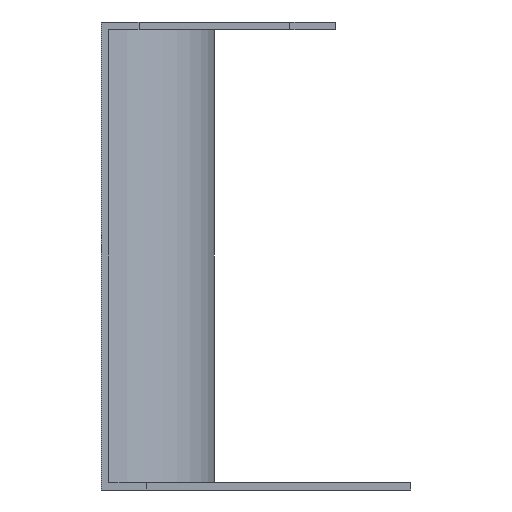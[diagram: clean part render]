
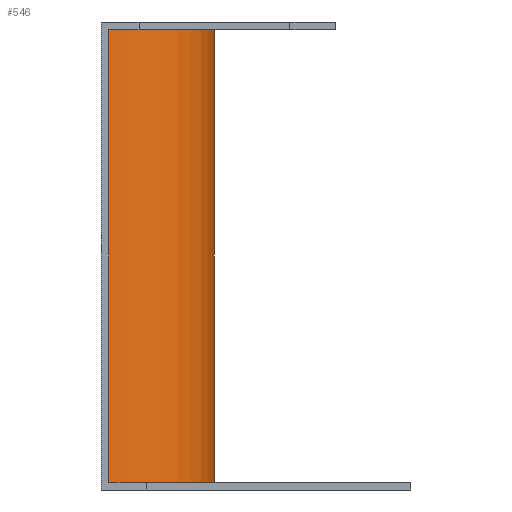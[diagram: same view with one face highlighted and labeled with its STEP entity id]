
A CAD part, front view. The second image highlights one B-rep face of the part: STEP entity #546.
In plain terms, the highlighted cylindrical face has radius 0.15 mm (diameter 0.3 mm), a partial arc.
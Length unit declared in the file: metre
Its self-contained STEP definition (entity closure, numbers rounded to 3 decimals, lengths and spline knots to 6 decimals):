
#13=CYLINDRICAL_SURFACE('',#745,0.00015);
#15=CIRCLE('',#731,0.00015);
#16=CIRCLE('',#734,0.00015);
#158=ORIENTED_EDGE('',*,*,#207,.F.);
#159=ORIENTED_EDGE('',*,*,#211,.F.);
#160=ORIENTED_EDGE('',*,*,#214,.F.);
#161=ORIENTED_EDGE('',*,*,#232,.F.);
#207=EDGE_CURVE('',#268,#270,#15,.T.);
#211=EDGE_CURVE('',#272,#268,#329,.T.);
#214=EDGE_CURVE('',#274,#272,#16,.T.);
#232=EDGE_CURVE('',#270,#274,#348,.T.);
#268=VERTEX_POINT('',#970);
#270=VERTEX_POINT('',#973);
#272=VERTEX_POINT('',#980);
#274=VERTEX_POINT('',#986);
#329=LINE('',#979,#397);
#348=LINE('',#1015,#416);
#397=VECTOR('',#829,1.);
#416=VECTOR('',#862,1.);
#443=EDGE_LOOP('',(#158,#159,#160,#161));
#469=FACE_BOUND('',#443,.T.);
#546=ADVANCED_FACE('',(#469),#13,.T.);
#731=AXIS2_PLACEMENT_3D('',#972,#822,#823);
#734=AXIS2_PLACEMENT_3D('',#985,#834,#835);
#745=AXIS2_PLACEMENT_3D('',#1022,#874,#875);
#822=DIRECTION('',(0.,0.,-1.));
#823=DIRECTION('',(1.,0.,0.));
#829=DIRECTION('',(0.,0.,-1.));
#834=DIRECTION('',(0.,0.,1.));
#835=DIRECTION('',(-1.,0.,0.));
#862=DIRECTION('',(0.,0.,1.));
#874=DIRECTION('',(0.,0.,1.));
#875=DIRECTION('',(1.,0.,0.));
#970=CARTESIAN_POINT('',(-0.113563,-0.046214,0.00951));
#972=CARTESIAN_POINT('',(-0.113573,-0.046364,0.00951));
#973=CARTESIAN_POINT('',(-0.113563,-0.046514,0.00951));
#979=CARTESIAN_POINT('',(-0.113563,-0.046214,0.0095));
#980=CARTESIAN_POINT('',(-0.113563,-0.046214,0.01011));
#985=CARTESIAN_POINT('',(-0.113573,-0.046364,0.01011));
#986=CARTESIAN_POINT('',(-0.113563,-0.046514,0.01011));
#1015=CARTESIAN_POINT('',(-0.113563,-0.046514,0.0095));
#1022=CARTESIAN_POINT('',(-0.113573,-0.046364,0.009165));
